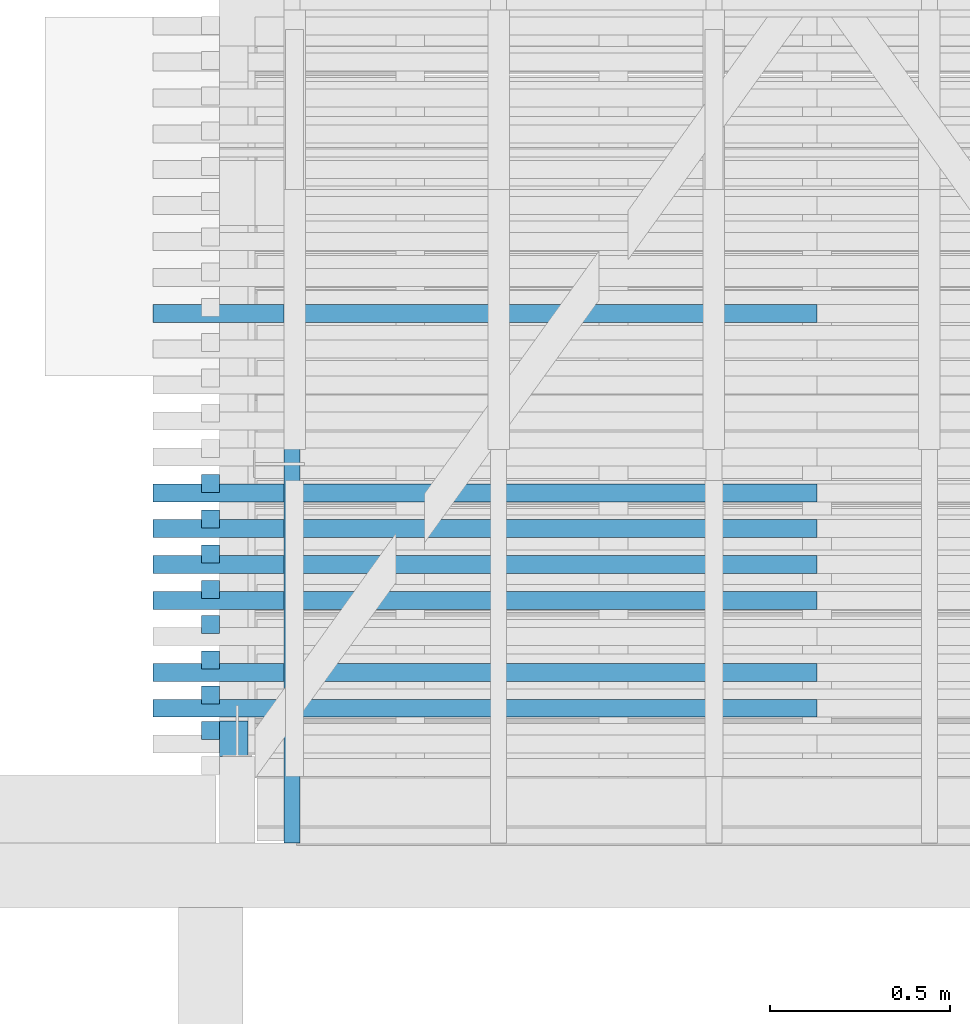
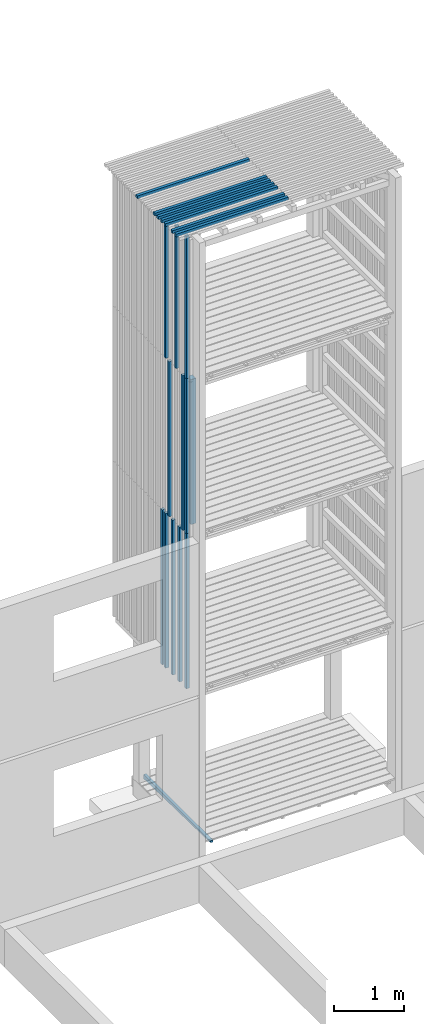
# One storey, part 9 of 182: 20 beams.
"""IFC2X3 building model written with IfcOpenShell, lengths in metres."""

from ifc_helpers import new_model, si_unit, frame, origin, place, context, project, spatial, faceted_brep, element, save


model = new_model("IFC2X3")

# Units and contexts
model_context = context("Model", 3, precision=1e-06, world=origin())
ifc_project = project(units=[si_unit("LENGTHUNIT", "METRE"), si_unit("PLANEANGLEUNIT", "RADIAN")], contexts=[model_context])

# Site, building, storey
site = spatial("IfcSite", under=ifc_project, CompositionType="ELEMENT")
building = spatial("IfcBuilding", under=site, CompositionType="ELEMENT")
storey = spatial("IfcBuildingStorey", under=building, Name="vs", CompositionType="ELEMENT", Elevation=-0.85)

# Beams
placement = place(None, origin())
beam_1_placement = place(placement, frame((4.979197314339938, 11.945077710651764, 10.47999999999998), z_axis=(0.0, 0.0, 1.0), x_axis=(-1.0, 0.0, 0.0)))
element("IfcBeam", 1, at=beam_1_placement, inside=storey, Name="Bardage", context=model_context, shape_type="Brep", body=[
    faceted_brep([(1.850000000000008, -0.025000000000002, -0.024999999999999), (1.850000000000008, -0.025000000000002, 0.025000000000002), (-1e-15, -0.025000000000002, 0.025000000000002), (-1e-15, -0.025000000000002, -0.024999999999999), (1.850000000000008, -0.025000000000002, 0.025000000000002), (1.850000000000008, -0.025000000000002, -0.024999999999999), (1.850000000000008, 0.025000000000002, -0.024999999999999), (1.850000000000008, 0.025000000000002, 0.025000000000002), (1.850000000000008, 0.025000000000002, -0.024999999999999), (1.850000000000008, -0.025000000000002, -0.024999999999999), (-1e-15, -0.025000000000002, -0.024999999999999), (-1e-15, 0.024999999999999, -0.024999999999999), (1.850000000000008, 0.025000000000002, 0.025000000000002), (1.850000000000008, 0.025000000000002, -0.024999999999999), (-1e-15, 0.024999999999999, -0.024999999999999), (-1e-15, 0.024999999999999, 0.025000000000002), (-1e-15, -0.025000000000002, 0.025000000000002), (1.850000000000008, -0.025000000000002, 0.025000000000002), (1.850000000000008, 0.025000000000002, 0.025000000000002), (-1e-15, 0.024999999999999, 0.025000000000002), (-1e-15, -0.025000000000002, -0.024999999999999), (-1e-15, -0.025000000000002, 0.025000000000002), (-1e-15, 0.024999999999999, 0.025000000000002), (-1e-15, 0.024999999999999, -0.024999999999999)], [[[0, 1, 2, 3]], [[4, 5, 6, 7]], [[8, 9, 10, 11]], [[12, 13, 14, 15]], [[16, 17, 18, 19]], [[20, 21, 22, 23]]]),
])
beam_2_placement = place(placement, frame((3.289197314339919, 10.78325952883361, 5.274999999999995), z_axis=(1.0, 0.0, 0.0), x_axis=(0.0, 0.0, 1.0)))
element("IfcBeam", 2, at=beam_2_placement, inside=storey, Name="Bardage", context=model_context, shape_type="Brep", body=[
    faceted_brep([(2.699999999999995, 0.025000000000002, 0.025000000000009), (2.699999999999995, -0.024999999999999, 0.025000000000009), (2.699999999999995, -0.024999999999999, -0.025000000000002), (2.699999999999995, 0.025000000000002, -0.025000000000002), (1e-15, 0.025000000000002, 0.025000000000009), (2.699999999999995, 0.025000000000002, 0.025000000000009), (2.699999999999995, 0.025000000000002, -0.025000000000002), (1e-15, 0.025000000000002, -0.025000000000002), (1e-15, -0.024999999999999, 0.025000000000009), (1e-15, 0.025000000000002, 0.025000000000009), (1e-15, 0.025000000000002, -0.025000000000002), (1e-15, -0.024999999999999, -0.025000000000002), (1e-15, 0.025000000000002, 0.025000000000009), (1e-15, -0.024999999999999, 0.025000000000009), (2.699999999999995, -0.024999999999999, 0.025000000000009), (2.699999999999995, 0.025000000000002, 0.025000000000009), (1e-15, -0.024999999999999, 0.025000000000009), (1e-15, -0.024999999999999, -0.025000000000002), (2.699999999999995, -0.024999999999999, -0.025000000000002), (2.699999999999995, -0.024999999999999, 0.025000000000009), (1e-15, -0.024999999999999, -0.025000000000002), (1e-15, 0.025000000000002, -0.025000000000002), (2.699999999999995, 0.025000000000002, -0.025000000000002), (2.699999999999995, -0.024999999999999, -0.025000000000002)], [[[0, 1, 2, 3]], [[4, 5, 6, 7]], [[8, 9, 10, 11]], [[12, 13, 14, 15]], [[16, 17, 18, 19]], [[20, 21, 22, 23]]]),
])
beam_3_placement = place(placement, frame((4.979197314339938, 11.145077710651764, 10.47999999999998), z_axis=(0.0, 0.0, 1.0), x_axis=(-1.0, 0.0, 0.0)))
element("IfcBeam", 3, at=beam_3_placement, inside=storey, Name="Bardage", context=model_context, shape_type="Brep", body=[
    faceted_brep([(1.850000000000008, -0.024999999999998, -0.024999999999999), (1.850000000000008, -0.024999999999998, 0.025000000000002), (-1e-15, -0.025000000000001, 0.025000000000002), (-1e-15, -0.025000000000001, -0.024999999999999), (1.850000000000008, -0.024999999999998, 0.025000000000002), (1.850000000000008, -0.024999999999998, -0.024999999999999), (1.850000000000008, 0.024999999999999, -0.024999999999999), (1.850000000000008, 0.024999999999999, 0.025000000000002), (1.850000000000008, 0.024999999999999, -0.024999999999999), (1.850000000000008, -0.024999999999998, -0.024999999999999), (-1e-15, -0.025000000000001, -0.024999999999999), (-1e-15, 0.024999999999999, -0.024999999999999), (1.850000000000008, 0.024999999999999, 0.025000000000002), (1.850000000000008, 0.024999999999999, -0.024999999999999), (-1e-15, 0.024999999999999, -0.024999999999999), (-1e-15, 0.024999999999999, 0.025000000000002), (-1e-15, -0.025000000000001, 0.025000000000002), (1.850000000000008, -0.024999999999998, 0.025000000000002), (1.850000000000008, 0.024999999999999, 0.025000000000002), (-1e-15, 0.024999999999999, 0.025000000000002), (-1e-15, -0.025000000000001, -0.024999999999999), (-1e-15, -0.025000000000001, 0.025000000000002), (-1e-15, 0.024999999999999, 0.025000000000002), (-1e-15, 0.024999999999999, -0.024999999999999)], [[[0, 1, 2, 3]], [[4, 5, 6, 7]], [[8, 9, 10, 11]], [[12, 13, 14, 15]], [[16, 17, 18, 19]], [[20, 21, 22, 23]]]),
])
beam_4_placement = place(placement, frame((3.289197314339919, 11.372350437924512, 2.575000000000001), z_axis=(1.0, 0.0, 0.0), x_axis=(0.0, 0.0, 1.0)))
element("IfcBeam", 4, at=beam_4_placement, inside=storey, Name="Bardage", context=model_context, shape_type="Brep", body=[
    faceted_brep([(2.699961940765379, -0.024999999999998, 0.025000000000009), (2.699961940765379, -0.024999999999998, -0.025000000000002), (2.699961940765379, 0.024999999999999, -0.025000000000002), (2.699961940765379, 0.024999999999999, 0.025000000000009), (0.0, -0.024999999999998, 0.025000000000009), (2.699961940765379, -0.024999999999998, 0.025000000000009), (2.699961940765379, 0.024999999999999, 0.025000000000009), (0.0, 0.024999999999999, 0.025000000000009), (0.0, -0.024999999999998, 0.025000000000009), (0.0, 0.024999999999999, 0.025000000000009), (0.0, 0.024999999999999, -0.025000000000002), (0.0, -0.024999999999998, -0.025000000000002), (0.0, -0.024999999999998, 0.025000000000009), (0.0, -0.024999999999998, -0.025000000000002), (2.699961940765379, -0.024999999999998, -0.025000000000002), (2.699961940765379, -0.024999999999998, 0.025000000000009), (0.0, -0.024999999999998, -0.025000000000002), (0.0, 0.024999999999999, -0.025000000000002), (2.699961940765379, 0.024999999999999, -0.025000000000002), (2.699961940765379, -0.024999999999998, -0.025000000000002), (0.0, 0.024999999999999, -0.025000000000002), (0.0, 0.024999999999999, 0.025000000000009), (2.699961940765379, 0.024999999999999, 0.025000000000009), (2.699961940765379, 0.024999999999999, -0.025000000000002)], [[[0, 1, 2, 3]], [[4, 5, 6, 7]], [[8, 9, 10, 11]], [[12, 13, 14, 15]], [[16, 17, 18, 19]], [[20, 21, 22, 23]]]),
])
beam_5_placement = place(placement, frame((3.289197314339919, 11.274168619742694, 5.274999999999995), z_axis=(1.0, 0.0, 0.0), x_axis=(0.0, 0.0, 1.0)))
element("IfcBeam", 5, at=beam_5_placement, inside=storey, Name="Bardage", context=model_context, shape_type="Brep", body=[
    faceted_brep([(2.699999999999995, 0.025000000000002, 0.025000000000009), (2.699999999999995, -0.025000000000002, 0.025000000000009), (2.699999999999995, -0.025000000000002, -0.025000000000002), (2.699999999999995, 0.025000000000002, -0.025000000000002), (1e-15, 0.025000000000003, 0.025000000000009), (2.699999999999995, 0.025000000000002, 0.025000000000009), (2.699999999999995, 0.025000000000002, -0.025000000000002), (1e-15, 0.025000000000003, -0.025000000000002), (1e-15, -0.025000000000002, 0.025000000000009), (1e-15, 0.025000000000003, 0.025000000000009), (1e-15, 0.025000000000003, -0.025000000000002), (1e-15, -0.025000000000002, -0.025000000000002), (1e-15, 0.025000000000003, 0.025000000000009), (1e-15, -0.025000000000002, 0.025000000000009), (2.699999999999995, -0.025000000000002, 0.025000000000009), (2.699999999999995, 0.025000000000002, 0.025000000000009), (1e-15, -0.025000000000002, 0.025000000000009), (1e-15, -0.025000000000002, -0.025000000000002), (2.699999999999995, -0.025000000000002, -0.025000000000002), (2.699999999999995, -0.025000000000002, 0.025000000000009), (1e-15, -0.025000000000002, -0.025000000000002), (1e-15, 0.025000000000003, -0.025000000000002), (2.699999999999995, 0.025000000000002, -0.025000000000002), (2.699999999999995, -0.025000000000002, -0.025000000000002)], [[[0, 1, 2, 3]], [[4, 5, 6, 7]], [[8, 9, 10, 11]], [[12, 13, 14, 15]], [[16, 17, 18, 19]], [[20, 21, 22, 23]]]),
])
beam_6_placement = place(placement, frame((3.289197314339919, 11.470532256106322, 2.575000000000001), z_axis=(1.0, 0.0, 0.0), x_axis=(0.0, 0.0, 1.0)))
element("IfcBeam", 6, at=beam_6_placement, inside=storey, Name="Bardage", context=model_context, shape_type="Brep", body=[
    faceted_brep([(2.699961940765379, -0.025000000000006, 0.025000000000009), (2.699961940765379, -0.025000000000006, -0.025000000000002), (2.699961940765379, 0.024999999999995, -0.025000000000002), (2.699961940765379, 0.024999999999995, 0.025000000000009), (0.0, -0.025000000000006, 0.025000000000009), (2.699961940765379, -0.025000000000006, 0.025000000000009), (2.699961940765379, 0.024999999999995, 0.025000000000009), (0.0, 0.024999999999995, 0.025000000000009), (0.0, -0.025000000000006, 0.025000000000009), (0.0, 0.024999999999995, 0.025000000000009), (0.0, 0.024999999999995, -0.025000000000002), (0.0, -0.025000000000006, -0.025000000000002), (0.0, -0.025000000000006, 0.025000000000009), (0.0, -0.025000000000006, -0.025000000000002), (2.699961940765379, -0.025000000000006, -0.025000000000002), (2.699961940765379, -0.025000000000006, 0.025000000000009), (0.0, -0.025000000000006, -0.025000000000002), (0.0, 0.024999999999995, -0.025000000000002), (2.699961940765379, 0.024999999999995, -0.025000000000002), (2.699961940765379, -0.025000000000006, -0.025000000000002), (0.0, 0.024999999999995, -0.025000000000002), (0.0, 0.024999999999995, 0.025000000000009), (2.699961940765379, 0.024999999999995, 0.025000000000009), (2.699961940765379, 0.024999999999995, -0.025000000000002)], [[[0, 1, 2, 3]], [[4, 5, 6, 7]], [[8, 9, 10, 11]], [[12, 13, 14, 15]], [[16, 17, 18, 19]], [[20, 21, 22, 23]]]),
])
beam_7_placement = place(placement, frame((4.979197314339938, 11.245077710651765, 10.47999999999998), z_axis=(0.0, 0.0, 1.0), x_axis=(-1.0, 0.0, 0.0)))
element("IfcBeam", 7, at=beam_7_placement, inside=storey, Name="Bardage", context=model_context, shape_type="Brep", body=[
    faceted_brep([(1.850000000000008, -0.024999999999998, -0.024999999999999), (1.850000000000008, -0.024999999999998, 0.025000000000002), (-1e-15, -0.024999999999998, 0.025000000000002), (-1e-15, -0.024999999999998, -0.024999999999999), (1.850000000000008, -0.024999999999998, 0.025000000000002), (1.850000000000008, -0.024999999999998, -0.024999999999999), (1.850000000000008, 0.024999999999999, -0.024999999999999), (1.850000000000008, 0.024999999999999, 0.025000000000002), (1.850000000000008, 0.024999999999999, -0.024999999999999), (1.850000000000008, -0.024999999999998, -0.024999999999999), (-1e-15, -0.024999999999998, -0.024999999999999), (-1e-15, 0.024999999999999, -0.024999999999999), (1.850000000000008, 0.024999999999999, 0.025000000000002), (1.850000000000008, 0.024999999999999, -0.024999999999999), (-1e-15, 0.024999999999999, -0.024999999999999), (-1e-15, 0.024999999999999, 0.025000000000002), (-1e-15, -0.024999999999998, 0.025000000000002), (1.850000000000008, -0.024999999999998, 0.025000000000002), (1.850000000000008, 0.024999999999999, 0.025000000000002), (-1e-15, 0.024999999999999, 0.025000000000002), (-1e-15, -0.024999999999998, -0.024999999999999), (-1e-15, -0.024999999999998, 0.025000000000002), (-1e-15, 0.024999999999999, 0.025000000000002), (-1e-15, 0.024999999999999, -0.024999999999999)], [[[0, 1, 2, 3]], [[4, 5, 6, 7]], [[8, 9, 10, 11]], [[12, 13, 14, 15]], [[16, 17, 18, 19]], [[20, 21, 22, 23]]]),
])
beam_8_placement = place(placement, frame((3.289197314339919, 10.78325952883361, 7.974999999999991), z_axis=(1.0, 0.0, 0.0), x_axis=(0.0, 0.0, 1.0)))
element("IfcBeam", 8, at=beam_8_placement, inside=storey, Name="Bardage", context=model_context, shape_type="Brep", body=[
    faceted_brep([(0.0, -0.024999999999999, 0.025000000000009), (0.0, 0.025000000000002, 0.025000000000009), (0.0, 0.025000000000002, -0.025000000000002), (0.0, -0.024999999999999, -0.025000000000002), (2.479999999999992, 0.025000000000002, -0.025000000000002), (2.479999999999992, 0.025000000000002, 0.025000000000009), (2.479999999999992, -0.024999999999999, 0.025000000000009), (2.479999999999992, -0.024999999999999, -0.025000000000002), (0.0, 0.025000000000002, 0.025000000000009), (0.0, -0.024999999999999, 0.025000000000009), (2.479999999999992, -0.024999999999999, 0.025000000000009), (2.479999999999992, 0.025000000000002, 0.025000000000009), (0.0, 0.025000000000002, -0.025000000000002), (0.0, 0.025000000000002, 0.025000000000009), (2.479999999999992, 0.025000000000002, 0.025000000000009), (2.479999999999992, 0.025000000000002, -0.025000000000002), (0.0, -0.024999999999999, -0.025000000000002), (0.0, 0.025000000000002, -0.025000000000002), (2.479999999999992, 0.025000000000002, -0.025000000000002), (2.479999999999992, -0.024999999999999, -0.025000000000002), (2.479999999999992, -0.024999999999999, 0.025000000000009), (0.0, -0.024999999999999, 0.025000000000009), (0.0, -0.024999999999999, -0.025000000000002), (2.479999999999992, -0.024999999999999, -0.025000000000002)], [[[0, 1, 2, 3]], [[4, 5, 6, 7]], [[8, 9, 10, 11]], [[12, 13, 14, 15]], [[16, 17, 18, 19]], [[20, 21, 22, 23]]]),
])
beam_9_placement = place(placement, frame((4.979197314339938, 10.945077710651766, 10.47999999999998), z_axis=(0.0, 0.0, 1.0), x_axis=(-1.0, -2e-15, 0.0)))
element("IfcBeam", 9, at=beam_9_placement, inside=storey, Name="Bardage", context=model_context, shape_type="Brep", body=[
    faceted_brep([(1.850000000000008, -0.025000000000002, -0.024999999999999), (1.850000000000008, -0.025000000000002, 0.025000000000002), (-1e-15, -0.024999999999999, 0.025000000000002), (-1e-15, -0.024999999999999, -0.024999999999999), (1.850000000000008, -0.025000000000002, 0.025000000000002), (1.850000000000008, -0.025000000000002, -0.024999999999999), (1.850000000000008, 0.025000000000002, -0.024999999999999), (1.850000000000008, 0.025000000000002, 0.025000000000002), (1.850000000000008, 0.025000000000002, -0.024999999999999), (1.850000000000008, -0.025000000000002, -0.024999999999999), (-1e-15, -0.024999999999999, -0.024999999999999), (0.0, 0.025000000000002, -0.024999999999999), (1.850000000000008, 0.025000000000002, 0.025000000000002), (1.850000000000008, 0.025000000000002, -0.024999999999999), (0.0, 0.025000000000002, -0.024999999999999), (0.0, 0.025000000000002, 0.025000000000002), (-1e-15, -0.024999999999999, 0.025000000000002), (1.850000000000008, -0.025000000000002, 0.025000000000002), (1.850000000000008, 0.025000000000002, 0.025000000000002), (0.0, 0.025000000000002, 0.025000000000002), (-1e-15, -0.024999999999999, -0.024999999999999), (-1e-15, -0.024999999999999, 0.025000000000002), (0.0, 0.025000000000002, 0.025000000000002), (0.0, 0.025000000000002, -0.024999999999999)], [[[0, 1, 2, 3]], [[4, 5, 6, 7]], [[8, 9, 10, 11]], [[12, 13, 14, 15]], [[16, 17, 18, 19]], [[20, 21, 22, 23]]]),
])
beam_10_placement = place(placement, frame((4.979197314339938, 11.345077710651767, 10.47999999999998), z_axis=(0.0, 0.0, 1.0), x_axis=(-1.0, 0.0, 0.0)))
element("IfcBeam", 10, at=beam_10_placement, inside=storey, Name="Bardage", context=model_context, shape_type="Brep", body=[
    faceted_brep([(1.850000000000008, -0.024999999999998, -0.024999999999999), (1.850000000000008, -0.024999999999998, 0.025000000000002), (-1e-15, -0.024999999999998, 0.025000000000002), (-1e-15, -0.024999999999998, -0.024999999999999), (1.850000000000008, -0.024999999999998, 0.025000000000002), (1.850000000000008, -0.024999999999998, -0.024999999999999), (1.850000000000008, 0.025000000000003, -0.024999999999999), (1.850000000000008, 0.025000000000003, 0.025000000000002), (1.850000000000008, 0.025000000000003, -0.024999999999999), (1.850000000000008, -0.024999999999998, -0.024999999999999), (-1e-15, -0.024999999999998, -0.024999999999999), (-1e-15, 0.024999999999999, -0.024999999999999), (1.850000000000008, 0.025000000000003, 0.025000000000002), (1.850000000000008, 0.025000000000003, -0.024999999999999), (-1e-15, 0.024999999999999, -0.024999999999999), (-1e-15, 0.024999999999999, 0.025000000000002), (-1e-15, -0.024999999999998, 0.025000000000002), (1.850000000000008, -0.024999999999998, 0.025000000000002), (1.850000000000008, 0.025000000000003, 0.025000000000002), (-1e-15, 0.024999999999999, 0.025000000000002), (-1e-15, -0.024999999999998, -0.024999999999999), (-1e-15, -0.024999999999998, 0.025000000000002), (-1e-15, 0.024999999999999, 0.025000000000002), (-1e-15, 0.024999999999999, -0.024999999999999)], [[[0, 1, 2, 3]], [[4, 5, 6, 7]], [[8, 9, 10, 11]], [[12, 13, 14, 15]], [[16, 17, 18, 19]], [[20, 21, 22, 23]]]),
])
beam_11_placement = place(placement, frame((3.354197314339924, 10.760077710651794, 5.446999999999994), z_axis=(0.0, 1.0, 0.0), x_axis=(0.0, 0.0, 1.0)))
element("IfcBeam", 11, at=beam_11_placement, inside=storey, Name="Support bardage", context=model_context, shape_type="Brep", body=[
    faceted_brep([(2.527999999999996, -0.039999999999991, -0.050000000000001), (2.527999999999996, 0.040000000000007, -0.050000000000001), (2.527999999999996, 0.040000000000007, 0.05), (2.527999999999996, -0.039999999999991, 0.05), (-1e-15, -0.039999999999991, -0.050000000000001), (2.527999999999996, -0.039999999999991, -0.050000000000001), (2.527999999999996, -0.039999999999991, 0.05), (-1e-15, -0.039999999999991, 0.05), (-1e-15, -0.039999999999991, -0.050000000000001), (-1e-15, -0.039999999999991, 0.05), (-1e-15, 0.040000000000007, 0.05), (-1e-15, 0.040000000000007, -0.050000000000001), (-1e-15, -0.039999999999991, -0.050000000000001), (-1e-15, 0.040000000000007, -0.050000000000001), (2.527999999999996, 0.040000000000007, -0.050000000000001), (2.527999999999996, -0.039999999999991, -0.050000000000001), (-1e-15, 0.040000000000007, -0.050000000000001), (-1e-15, 0.040000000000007, 0.05), (2.527999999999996, 0.040000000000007, 0.05), (2.527999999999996, 0.040000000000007, -0.050000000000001), (-1e-15, 0.040000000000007, 0.05), (-1e-15, -0.039999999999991, 0.05), (2.527999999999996, -0.039999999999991, 0.05), (2.527999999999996, 0.040000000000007, 0.05)], [[[0, 1, 2, 3]], [[4, 5, 6, 7]], [[8, 9, 10, 11]], [[12, 13, 14, 15]], [[16, 17, 18, 19]], [[20, 21, 22, 23]]]),
])
beam_12_placement = place(placement, frame((3.289197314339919, 11.372350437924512, 7.974999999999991), z_axis=(1.0, 0.0, 0.0), x_axis=(0.0, 0.0, 1.0)))
element("IfcBeam", 12, at=beam_12_placement, inside=storey, Name="Bardage", context=model_context, shape_type="Brep", body=[
    faceted_brep([(0.0, -0.024999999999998, 0.025000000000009), (0.0, 0.024999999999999, 0.025000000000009), (0.0, 0.024999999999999, -0.025000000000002), (0.0, -0.024999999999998, -0.025000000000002), (2.479999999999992, 0.024999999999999, -0.025000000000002), (2.479999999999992, 0.024999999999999, 0.025000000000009), (2.479999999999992, -0.024999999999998, 0.025000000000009), (2.479999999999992, -0.024999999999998, -0.025000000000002), (0.0, 0.024999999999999, 0.025000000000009), (0.0, -0.024999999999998, 0.025000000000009), (2.479999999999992, -0.024999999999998, 0.025000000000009), (2.479999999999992, 0.024999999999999, 0.025000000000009), (0.0, 0.024999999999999, -0.025000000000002), (0.0, 0.024999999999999, 0.025000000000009), (2.479999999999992, 0.024999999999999, 0.025000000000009), (2.479999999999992, 0.024999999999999, -0.025000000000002), (0.0, -0.024999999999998, -0.025000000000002), (0.0, 0.024999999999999, -0.025000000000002), (2.479999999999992, 0.024999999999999, -0.025000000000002), (2.479999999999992, -0.024999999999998, -0.025000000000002), (2.479999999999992, -0.024999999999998, 0.025000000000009), (0.0, -0.024999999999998, 0.025000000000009), (0.0, -0.024999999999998, -0.025000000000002), (2.479999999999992, -0.024999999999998, -0.025000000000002)], [[[0, 1, 2, 3]], [[4, 5, 6, 7]], [[8, 9, 10, 11]], [[12, 13, 14, 15]], [[16, 17, 18, 19]], [[20, 21, 22, 23]]]),
])
beam_13_placement = place(placement, frame((3.289197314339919, 11.175986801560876, 2.575000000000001), z_axis=(1.0, 0.0, 0.0), x_axis=(0.0, 0.0, 1.0)))
element("IfcBeam", 13, at=beam_13_placement, inside=storey, Name="Bardage", context=model_context, shape_type="Brep", body=[
    faceted_brep([(2.699961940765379, -0.025000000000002, 0.025000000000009), (2.699961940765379, -0.025000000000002, -0.025000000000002), (2.699961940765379, 0.024999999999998, -0.025000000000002), (2.699961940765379, 0.024999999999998, 0.025000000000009), (0.0, -0.024999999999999, 0.025000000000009), (2.699961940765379, -0.025000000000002, 0.025000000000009), (2.699961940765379, 0.024999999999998, 0.025000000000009), (0.0, 0.024999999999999, 0.025000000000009), (0.0, -0.024999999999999, 0.025000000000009), (0.0, 0.024999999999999, 0.025000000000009), (0.0, 0.024999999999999, -0.025000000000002), (0.0, -0.024999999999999, -0.025000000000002), (0.0, -0.024999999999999, 0.025000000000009), (0.0, -0.024999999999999, -0.025000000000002), (2.699961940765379, -0.025000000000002, -0.025000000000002), (2.699961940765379, -0.025000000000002, 0.025000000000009), (0.0, -0.024999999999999, -0.025000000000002), (0.0, 0.024999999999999, -0.025000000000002), (2.699961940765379, 0.024999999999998, -0.025000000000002), (2.699961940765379, -0.025000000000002, -0.025000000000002), (0.0, 0.024999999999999, -0.025000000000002), (0.0, 0.024999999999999, 0.025000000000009), (2.699961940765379, 0.024999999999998, 0.025000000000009), (2.699961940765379, 0.024999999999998, -0.025000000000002)], [[[0, 1, 2, 3]], [[4, 5, 6, 7]], [[8, 9, 10, 11]], [[12, 13, 14, 15]], [[16, 17, 18, 19]], [[20, 21, 22, 23]]]),
])
beam_14_placement = place(placement, frame((4.979197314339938, 10.845077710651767, 10.47999999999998), z_axis=(0.0, 0.0, 1.0), x_axis=(-1.0, 0.0, 0.0)))
element("IfcBeam", 14, at=beam_14_placement, inside=storey, Name="Bardage", context=model_context, shape_type="Brep", body=[
    faceted_brep([(1.850000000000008, -0.024999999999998, -0.024999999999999), (1.850000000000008, -0.024999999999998, 0.025000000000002), (-1e-15, -0.024999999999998, 0.025000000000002), (-1e-15, -0.024999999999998, -0.024999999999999), (1.850000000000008, -0.024999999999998, 0.025000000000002), (1.850000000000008, -0.024999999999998, -0.024999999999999), (1.850000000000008, 0.025000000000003, -0.024999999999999), (1.850000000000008, 0.025000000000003, 0.025000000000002), (1.850000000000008, 0.025000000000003, -0.024999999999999), (1.850000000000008, -0.024999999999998, -0.024999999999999), (-1e-15, -0.024999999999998, -0.024999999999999), (-1e-15, 0.025000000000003, -0.024999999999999), (1.850000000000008, 0.025000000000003, 0.025000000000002), (1.850000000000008, 0.025000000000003, -0.024999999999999), (-1e-15, 0.025000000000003, -0.024999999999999), (-1e-15, 0.025000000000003, 0.025000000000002), (-1e-15, -0.024999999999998, 0.025000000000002), (1.850000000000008, -0.024999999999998, 0.025000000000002), (1.850000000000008, 0.025000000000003, 0.025000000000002), (-1e-15, 0.025000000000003, 0.025000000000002), (-1e-15, -0.024999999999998, -0.024999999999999), (-1e-15, -0.024999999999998, 0.025000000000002), (-1e-15, 0.025000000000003, 0.025000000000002), (-1e-15, 0.025000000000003, -0.024999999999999)], [[[0, 1, 2, 3]], [[4, 5, 6, 7]], [[8, 9, 10, 11]], [[12, 13, 14, 15]], [[16, 17, 18, 19]], [[20, 21, 22, 23]]]),
])
beam_15_placement = place(placement, frame((3.289197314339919, 10.881441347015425, 5.274999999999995), z_axis=(1.0, 0.0, 0.0), x_axis=(0.0, 0.0, 1.0)))
element("IfcBeam", 15, at=beam_15_placement, inside=storey, Name="Bardage", context=model_context, shape_type="Brep", body=[
    faceted_brep([(2.699999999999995, 0.024999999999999, 0.025000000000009), (2.699999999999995, -0.024999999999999, 0.025000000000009), (2.699999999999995, -0.024999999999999, -0.025000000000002), (2.699999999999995, 0.024999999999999, -0.025000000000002), (1e-15, 0.024999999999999, 0.025000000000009), (2.699999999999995, 0.024999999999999, 0.025000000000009), (2.699999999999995, 0.024999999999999, -0.025000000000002), (1e-15, 0.024999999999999, -0.025000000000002), (1e-15, -0.024999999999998, 0.025000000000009), (1e-15, 0.024999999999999, 0.025000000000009), (1e-15, 0.024999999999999, -0.025000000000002), (1e-15, -0.024999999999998, -0.025000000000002), (1e-15, 0.024999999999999, 0.025000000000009), (1e-15, -0.024999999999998, 0.025000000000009), (2.699999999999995, -0.024999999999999, 0.025000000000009), (2.699999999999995, 0.024999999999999, 0.025000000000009), (1e-15, -0.024999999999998, 0.025000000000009), (1e-15, -0.024999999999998, -0.025000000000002), (2.699999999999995, -0.024999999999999, -0.025000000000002), (2.699999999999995, -0.024999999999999, 0.025000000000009), (1e-15, -0.024999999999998, -0.025000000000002), (1e-15, 0.024999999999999, -0.025000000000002), (2.699999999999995, 0.024999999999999, -0.025000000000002), (2.699999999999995, -0.024999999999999, -0.025000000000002)], [[[0, 1, 2, 3]], [[4, 5, 6, 7]], [[8, 9, 10, 11]], [[12, 13, 14, 15]], [[16, 17, 18, 19]], [[20, 21, 22, 23]]]),
])
beam_16_placement = place(placement, frame((3.289197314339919, 10.979623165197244, 2.575000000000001), z_axis=(1.0, 0.0, 0.0), x_axis=(0.0, 0.0, 1.0)))
element("IfcBeam", 16, at=beam_16_placement, inside=storey, Name="Bardage", context=model_context, shape_type="Brep", body=[
    faceted_brep([(2.699961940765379, -0.025000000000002, 0.025000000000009), (2.699961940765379, -0.025000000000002, -0.025000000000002), (2.699961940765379, 0.025000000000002, -0.025000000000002), (2.699961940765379, 0.025000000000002, 0.025000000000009), (0.0, -0.024999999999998, 0.025000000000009), (2.699961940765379, -0.025000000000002, 0.025000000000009), (2.699961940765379, 0.025000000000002, 0.025000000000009), (0.0, 0.025000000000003, 0.025000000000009), (0.0, -0.024999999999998, 0.025000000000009), (0.0, 0.025000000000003, 0.025000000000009), (0.0, 0.025000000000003, -0.025000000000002), (0.0, -0.024999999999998, -0.025000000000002), (0.0, -0.024999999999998, 0.025000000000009), (0.0, -0.024999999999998, -0.025000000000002), (2.699961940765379, -0.025000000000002, -0.025000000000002), (2.699961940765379, -0.025000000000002, 0.025000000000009), (0.0, -0.024999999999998, -0.025000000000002), (0.0, 0.025000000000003, -0.025000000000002), (2.699961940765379, 0.025000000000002, -0.025000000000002), (2.699961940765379, -0.025000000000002, -0.025000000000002), (0.0, 0.025000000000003, -0.025000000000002), (0.0, 0.025000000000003, 0.025000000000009), (2.699961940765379, 0.025000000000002, 0.025000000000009), (2.699961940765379, 0.025000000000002, -0.025000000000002)], [[[0, 1, 2, 3]], [[4, 5, 6, 7]], [[8, 9, 10, 11]], [[12, 13, 14, 15]], [[16, 17, 18, 19]], [[20, 21, 22, 23]]]),
])
beam_17_placement = place(placement, frame((3.516697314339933, 10.470077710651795, -0.015599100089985), z_axis=(0.0, 0.0, 1.0), x_axis=(0.0, 1.0, 0.0)))
element("IfcBeam", 17, at=beam_17_placement, inside=storey, Name="Calage", context=model_context, shape_type="Brep", body=[
    faceted_brep([(0.0, 0.022500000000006, 0.002600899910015), (1.910000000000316, 0.022500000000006, -0.035599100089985), (1.910000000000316, -0.022499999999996, -0.035599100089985), (0.0, -0.022499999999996, 0.002600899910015), (0.0, -0.022499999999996, 0.035599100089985), (0.0, 0.022500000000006, 0.035599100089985), (0.0, 0.022500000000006, 0.002600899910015), (0.0, -0.022499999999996, 0.002600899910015), (0.0, 0.022500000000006, 0.035599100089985), (0.0, -0.022499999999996, 0.035599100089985), (1.910000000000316, -0.022499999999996, 0.035599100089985), (1.910000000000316, 0.022500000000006, 0.035599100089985), (0.0, 0.022500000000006, 0.002600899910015), (0.0, 0.022500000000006, 0.035599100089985), (1.910000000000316, 0.022500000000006, 0.035599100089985), (1.910000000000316, 0.022500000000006, -0.035599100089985), (1.910000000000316, 0.022500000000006, -0.035599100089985), (1.910000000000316, 0.022500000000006, 0.035599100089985), (1.910000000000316, -0.022499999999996, 0.035599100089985), (1.910000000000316, -0.022499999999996, -0.035599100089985), (1.910000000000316, -0.022499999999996, -0.035599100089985), (1.910000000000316, -0.022499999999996, 0.035599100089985), (0.0, -0.022499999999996, 0.035599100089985), (0.0, -0.022499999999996, 0.002600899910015)], [[[0, 1, 2, 3]], [[4, 5, 6, 7]], [[8, 9, 10, 11]], [[12, 13, 14, 15]], [[16, 17, 18, 19]], [[20, 21, 22, 23]]]),
])
beam_18_placement = place(placement, frame((4.979197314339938, 11.445077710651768, 10.47999999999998), z_axis=(0.0, 0.0, 1.0), x_axis=(-1.0, -2e-15, 0.0)))
element("IfcBeam", 18, at=beam_18_placement, inside=storey, Name="Bardage", context=model_context, shape_type="Brep", body=[
    faceted_brep([(1.850000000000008, -0.025000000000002, -0.024999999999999), (1.850000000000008, -0.025000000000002, 0.025000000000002), (-1e-15, -0.024999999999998, 0.025000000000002), (-1e-15, -0.024999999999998, -0.024999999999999), (1.850000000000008, -0.025000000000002, 0.025000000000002), (1.850000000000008, -0.025000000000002, -0.024999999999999), (1.850000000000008, 0.025000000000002, -0.024999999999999), (1.850000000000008, 0.025000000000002, 0.025000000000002), (1.850000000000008, 0.025000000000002, -0.024999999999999), (1.850000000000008, -0.025000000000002, -0.024999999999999), (-1e-15, -0.024999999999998, -0.024999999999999), (-1e-15, 0.025000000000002, -0.024999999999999), (1.850000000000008, 0.025000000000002, 0.025000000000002), (1.850000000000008, 0.025000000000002, -0.024999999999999), (-1e-15, 0.025000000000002, -0.024999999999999), (-1e-15, 0.025000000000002, 0.025000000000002), (-1e-15, -0.024999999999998, 0.025000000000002), (1.850000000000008, -0.025000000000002, 0.025000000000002), (1.850000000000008, 0.025000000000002, 0.025000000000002), (-1e-15, 0.025000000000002, 0.025000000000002), (-1e-15, -0.024999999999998, -0.024999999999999), (-1e-15, -0.024999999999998, 0.025000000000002), (-1e-15, 0.025000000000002, 0.025000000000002), (-1e-15, 0.025000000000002, -0.024999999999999)], [[[0, 1, 2, 3]], [[4, 5, 6, 7]], [[8, 9, 10, 11]], [[12, 13, 14, 15]], [[16, 17, 18, 19]], [[20, 21, 22, 23]]]),
])
beam_19_placement = place(placement, frame((3.289197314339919, 10.78325952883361, 2.575000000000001), z_axis=(1.0, 0.0, 0.0), x_axis=(0.0, 0.0, 1.0)))
element("IfcBeam", 19, at=beam_19_placement, inside=storey, Name="Bardage", context=model_context, shape_type="Brep", body=[
    faceted_brep([(2.699961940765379, -0.024999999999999, 0.025000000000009), (2.699961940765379, -0.024999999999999, -0.025000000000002), (2.699961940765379, 0.025000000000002, -0.025000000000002), (2.699961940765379, 0.025000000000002, 0.025000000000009), (0.0, -0.024999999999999, 0.025000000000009), (2.699961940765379, -0.024999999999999, 0.025000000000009), (2.699961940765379, 0.025000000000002, 0.025000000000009), (0.0, 0.025000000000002, 0.025000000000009), (0.0, -0.024999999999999, 0.025000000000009), (0.0, 0.025000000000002, 0.025000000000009), (0.0, 0.025000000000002, -0.025000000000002), (0.0, -0.024999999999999, -0.025000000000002), (0.0, -0.024999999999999, 0.025000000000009), (0.0, -0.024999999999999, -0.025000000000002), (2.699961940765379, -0.024999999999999, -0.025000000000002), (2.699961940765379, -0.024999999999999, 0.025000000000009), (0.0, -0.024999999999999, -0.025000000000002), (0.0, 0.025000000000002, -0.025000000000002), (2.699961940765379, 0.025000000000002, -0.025000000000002), (2.699961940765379, -0.024999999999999, -0.025000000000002), (0.0, 0.025000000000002, -0.025000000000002), (0.0, 0.025000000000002, 0.025000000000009), (2.699961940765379, 0.025000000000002, 0.025000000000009), (2.699961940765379, 0.025000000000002, -0.025000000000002)], [[[0, 1, 2, 3]], [[4, 5, 6, 7]], [[8, 9, 10, 11]], [[12, 13, 14, 15]], [[16, 17, 18, 19]], [[20, 21, 22, 23]]]),
])
beam_20_placement = place(placement, frame((3.289197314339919, 11.07780498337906, 7.974999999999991), z_axis=(1.0, 0.0, 0.0), x_axis=(0.0, 0.0, 1.0)))
element("IfcBeam", 20, at=beam_20_placement, inside=storey, Name="Bardage", context=model_context, shape_type="Brep", body=[
    faceted_brep([(0.0, -0.024999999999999, 0.025000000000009), (0.0, 0.025000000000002, 0.025000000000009), (0.0, 0.025000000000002, -0.025000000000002), (0.0, -0.024999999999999, -0.025000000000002), (2.479999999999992, 0.025000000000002, -0.025000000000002), (2.479999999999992, 0.025000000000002, 0.025000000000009), (2.479999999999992, -0.024999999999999, 0.025000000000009), (2.479999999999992, -0.024999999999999, -0.025000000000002), (0.0, 0.025000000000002, 0.025000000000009), (0.0, -0.024999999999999, 0.025000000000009), (2.479999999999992, -0.024999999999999, 0.025000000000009), (2.479999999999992, 0.025000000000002, 0.025000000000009), (0.0, 0.025000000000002, -0.025000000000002), (0.0, 0.025000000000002, 0.025000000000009), (2.479999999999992, 0.025000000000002, 0.025000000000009), (2.479999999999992, 0.025000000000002, -0.025000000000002), (0.0, -0.024999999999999, -0.025000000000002), (0.0, 0.025000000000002, -0.025000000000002), (2.479999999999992, 0.025000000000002, -0.025000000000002), (2.479999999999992, -0.024999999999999, -0.025000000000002), (2.479999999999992, -0.024999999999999, 0.025000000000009), (0.0, -0.024999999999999, 0.025000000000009), (0.0, -0.024999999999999, -0.025000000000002), (2.479999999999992, -0.024999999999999, -0.025000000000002)], [[[0, 1, 2, 3]], [[4, 5, 6, 7]], [[8, 9, 10, 11]], [[12, 13, 14, 15]], [[16, 17, 18, 19]], [[20, 21, 22, 23]]]),
])

save(model, "model.ifc")
